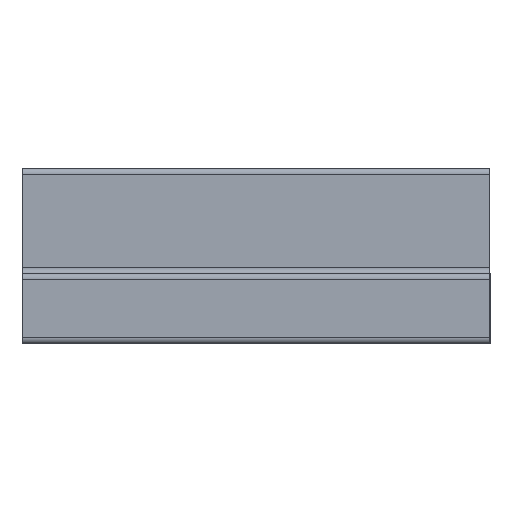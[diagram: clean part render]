
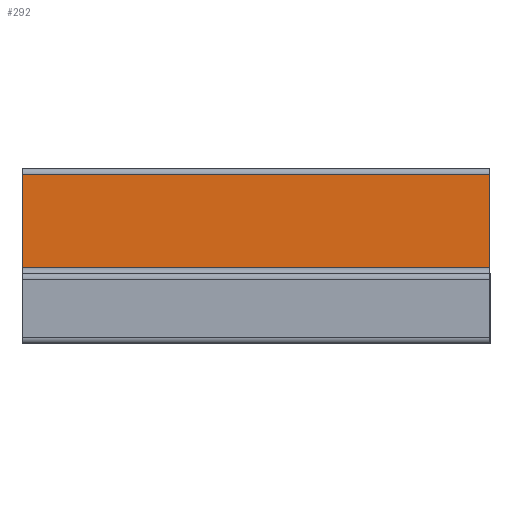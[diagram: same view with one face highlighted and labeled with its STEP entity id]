
A CAD part, left-side view. The second image highlights one B-rep face of the part: STEP entity #292.
In plain terms, the highlighted planar face has unit normal (-1, 0, 0).
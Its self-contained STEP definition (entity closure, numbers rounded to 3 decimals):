
#292=ADVANCED_FACE('',(#590),#591,.F.);
#590=FACE_OUTER_BOUND('',#889,.T.);
#591=PLANE('',#890);
#889=EDGE_LOOP('',(#1784,#1785,#1786,#1787));
#890=AXIS2_PLACEMENT_3D('',#1788,#1789,#1790);
#1784=ORIENTED_EDGE('',*,*,#2185,.T.);
#1785=ORIENTED_EDGE('',*,*,#2240,.F.);
#1786=ORIENTED_EDGE('',*,*,#2146,.F.);
#1787=ORIENTED_EDGE('',*,*,#2206,.T.);
#1788=CARTESIAN_POINT('',(0.0,0.,-0.5));
#1789=DIRECTION('',(1.0,0.0,0.0));
#1790=DIRECTION('',(0.0,1.0,0.0));
#2146=EDGE_CURVE('',#2689,#2691,#2692,.T.);
#2185=EDGE_CURVE('',#2750,#2748,#2751,.T.);
#2206=EDGE_CURVE('',#2689,#2750,#2776,.T.);
#2240=EDGE_CURVE('',#2691,#2748,#2810,.T.);
#2689=VERTEX_POINT('',#3429);
#2691=VERTEX_POINT('',#3431);
#2692=LINE('',#3432,#3433);
#2748=VERTEX_POINT('',#3507);
#2750=VERTEX_POINT('',#3509);
#2751=LINE('',#3510,#3511);
#2776=LINE('',#3545,#3546);
#2810=LINE('',#3595,#3596);
#3429=CARTESIAN_POINT('',(0.0,0.,-0.5));
#3431=CARTESIAN_POINT('',(0.0,0.,-8.5));
#3432=CARTESIAN_POINT('',(0.0,0.,-0.5));
#3433=VECTOR('',#3966,1.0);
#3507=CARTESIAN_POINT('',(0.0,40.0,-8.5));
#3509=CARTESIAN_POINT('',(0.0,40.0,-0.5));
#3510=CARTESIAN_POINT('',(0.0,40.0,-0.5));
#3511=VECTOR('',#4027,1.0);
#3545=CARTESIAN_POINT('',(0.0,0.,-0.5));
#3546=VECTOR('',#4064,1.0);
#3595=CARTESIAN_POINT('',(0.0,0.,-8.5));
#3596=VECTOR('',#4074,1.0);
#3966=DIRECTION('',(0.0,0.0,-1.0));
#4027=DIRECTION('',(0.0,0.0,-1.0));
#4064=DIRECTION('',(0.0,1.0,0.0));
#4074=DIRECTION('',(0.0,1.0,0.0));
